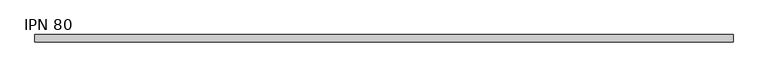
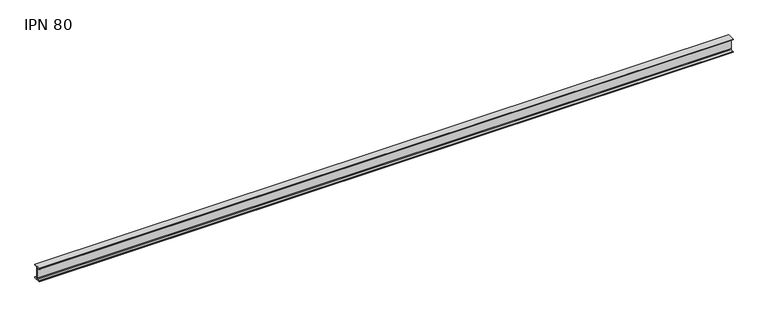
"""IFC4 building model written with IfcOpenShell, lengths in millimetres: beam geometry, IPN - Secciones en I con alas cónicas : IPN 80."""

from ifc_helpers import new_model, si_unit, point, frame, frame_2d, origin, place, context, project, spatial, polyline, circle_curve, trimmed, segment, composite_curve, outline, extrude, source, transform, mapped, element, save


def ipn_80_9606c04a(model_context):
    return source(origin(), model_context, "Body", "SweptSolid", [
        extrude(outline(composite_curve([segment(polyline([(21.0, 40.0), (21.0, 37.5704306)]), True, "CONTINUOUS"), segment(trimmed(circle_curve(frame_2d((18.7, 37.5704306)), 2.3), [point((21.0, 37.5704306))], [point((19.01889, 35.2926446))], False, "CARTESIAN"), True, "CONTINUOUS"), segment(polyline([(19.01889, 35.2926446), (5.3092734, 33.3732983)]), True, "CONTINUOUS"), segment(trimmed(circle_curve(frame_2d((5.85, 29.5109655)), 3.9), [point((5.3092734, 33.3732983))], [point((1.95, 29.5109655))], True, "CARTESIAN"), True, "CONTINUOUS"), segment(polyline([(1.95, 29.5109655), (1.95, -29.5109655)]), True, "CONTINUOUS"), segment(trimmed(circle_curve(frame_2d((5.85, -29.5109655)), 3.9), [point((1.95, -29.5109655))], [point((5.3092734, -33.3732983))], True, "CARTESIAN"), True, "CONTINUOUS"), segment(polyline([(5.3092734, -33.3732983), (19.01889, -35.2926446)]), True, "CONTINUOUS"), segment(trimmed(circle_curve(frame_2d((18.7, -37.5704306)), 2.3), [point((19.01889, -35.2926446))], [point((21.0, -37.5704306))], False, "CARTESIAN"), True, "CONTINUOUS"), segment(polyline([(21.0, -37.5704306), (21.0, -40.0), (-21.0, -40.0), (-21.0, -37.5704306)]), True, "CONTINUOUS"), segment(trimmed(circle_curve(frame_2d((-18.7, -37.5704306)), 2.3), [point((-21.0, -37.5704306))], [point((-19.01889, -35.2926446))], False, "CARTESIAN"), True, "CONTINUOUS"), segment(polyline([(-19.01889, -35.2926446), (-5.3092734, -33.3732983)]), True, "CONTINUOUS"), segment(trimmed(circle_curve(frame_2d((-5.85, -29.5109655)), 3.9), [point((-5.3092734, -33.3732983))], [point((-1.95, -29.5109655))], True, "CARTESIAN"), True, "CONTINUOUS"), segment(polyline([(-1.95, -29.5109655), (-1.95, 29.5109655)]), True, "CONTINUOUS"), segment(trimmed(circle_curve(frame_2d((-5.85, 29.5109655)), 3.9), [point((-1.95, 29.5109655))], [point((-5.3092734, 33.3732983))], True, "CARTESIAN"), True, "CONTINUOUS"), segment(polyline([(-5.3092734, 33.3732983), (-19.01889, 35.2926446)]), True, "CONTINUOUS"), segment(trimmed(circle_curve(frame_2d((-18.7, 37.5704306)), 2.3), [point((-19.01889, 35.2926446))], [point((-21.0, 37.5704306))], False, "CARTESIAN"), True, "CONTINUOUS"), segment(polyline([(-21.0, 37.5704306), (-21.0, 40.0), (21.0, 40.0)]), True, "CONTINUOUS")], self_intersect=False)), frame((-1993.85, 0.0, 0.0), z_axis=(1.0, 0.0, 0.0), x_axis=(0.0, 1.0, 0.0)), (0.0, 0.0, 1.0), 3938.65),
    ])


if __name__ == "__main__":
    model = new_model("IFC4")
    model_context = context("Model", 3, world=origin())
    ifc_project = project(units=[si_unit("LENGTHUNIT", "METRE", prefix="MILLI")], contexts=[model_context])
    site = spatial("IfcSite", under=ifc_project)
    building = spatial("IfcBuilding", under=site)
    placement = place(None, origin())
    ipn_80_shape = ipn_80_9606c04a(model_context)
    element("IfcBeam", 1, ObjectType="IPN - Secciones en I con alas cónicas : IPN 80", at=placement, inside=building, context=model_context, shape_type="MappedRepresentation", body=[
        mapped(ipn_80_shape, transform((0.0, 0.0, 0.0), x_axis=(1.0, 0.0, 0.0), y_axis=(0.0, 1.0, 0.0), z_axis=(0.0, 0.0, 1.0))),
    ])
    save(model, "model.ifc")
